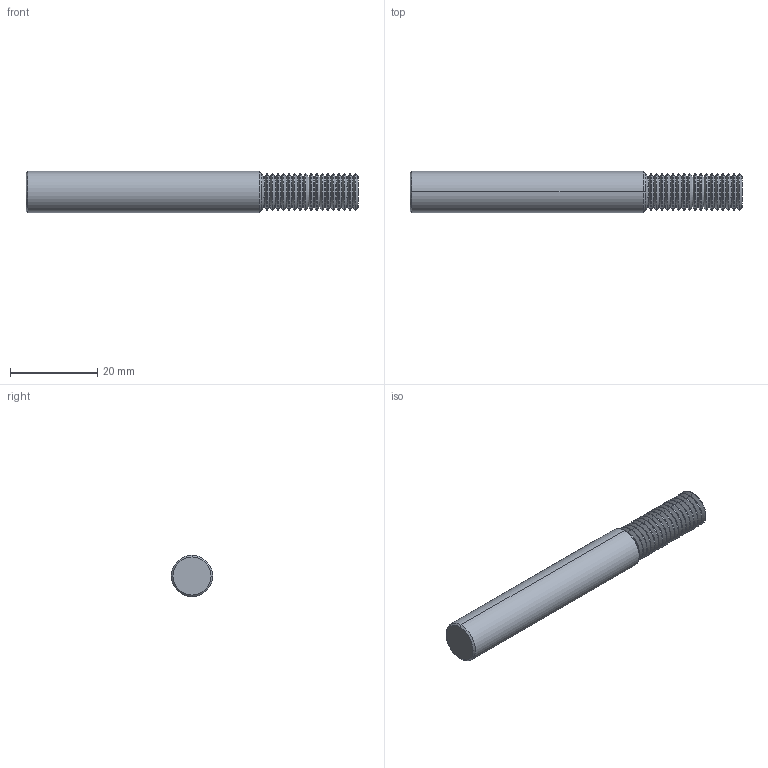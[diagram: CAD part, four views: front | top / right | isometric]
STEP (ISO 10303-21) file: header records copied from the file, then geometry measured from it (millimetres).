
FILE_DESCRIPTION (( 'STEP AP203' ), '1' );
FILE_NAME ('TMI335-20H.STEP', '2021-09-16T18:25:40', ( '' ), ( '' ), 'SwSTEP 2.0', 'SolidWorks 2020', '' );
FILE_SCHEMA (( 'CONFIG_CONTROL_DESIGN' ));
Length unit declared in the file: inch
Products named in the file (1): TMI335-20H
Bounding box: 76.2 x 9.52 x 9.52 mm (x, y, z)
Volume: 4858.7 mm3; surface area: 2643.6 mm2
Topology: 1 solids, 1 shells, 150 faces, 298 edges, 150 vertices
Faces by surface type: cylinder 74, cone 74, plane 2
Entity records: 3823 total; most frequent: DIRECTION 750, CARTESIAN_POINT 599, ORIENTED_EDGE 596, AXIS2_PLACEMENT_3D 301, EDGE_CURVE 298, VERTEX_POINT 150, ADVANCED_FACE 150, CIRCLE 150
